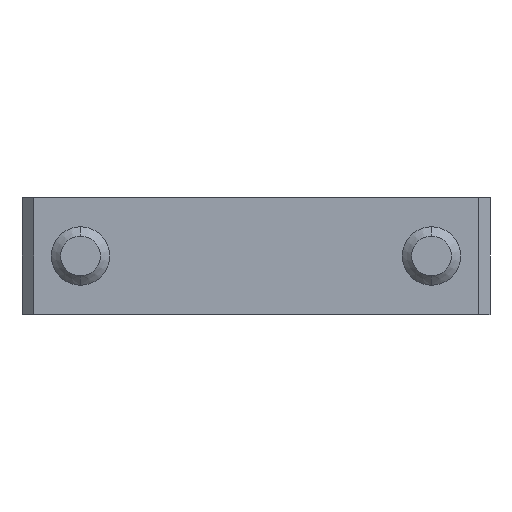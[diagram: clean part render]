
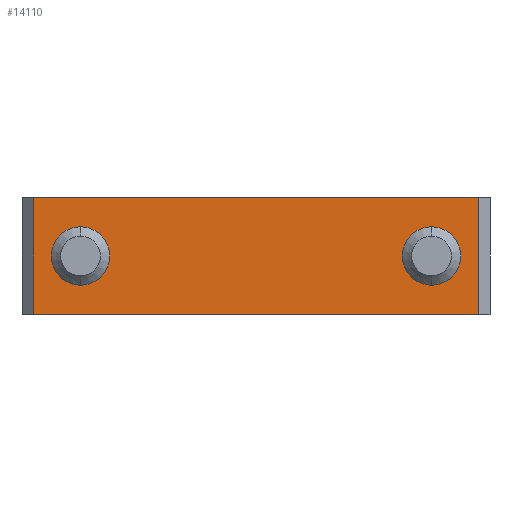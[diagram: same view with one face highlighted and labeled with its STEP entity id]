
A CAD part, front view. The second image highlights one B-rep face of the part: STEP entity #14110.
In plain terms, the highlighted planar face has unit normal (0, -1, 0).
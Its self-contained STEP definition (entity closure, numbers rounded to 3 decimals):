
#578 = VERTEX_POINT ( 'NONE', #10893 ) ;
#682 = EDGE_CURVE ( 'NONE', #10719, #578, #13138, .T. ) ;
#1103 = VERTEX_POINT ( 'NONE', #1793 ) ;
#1231 = EDGE_CURVE ( 'NONE', #16197, #8776, #11460, .T. ) ;
#1290 = AXIS2_PLACEMENT_3D ( 'NONE', #19780, #7732, #13087 ) ;
#1379 = EDGE_LOOP ( 'NONE', ( #9186, #13948 ) ) ;
#1493 = DIRECTION ( 'NONE',  ( 0., 0., 1. ) ) ;
#1654 = CARTESIAN_POINT ( 'NONE',  ( -33.909, 13.955, -5. ) ) ;
#1793 = CARTESIAN_POINT ( 'NONE',  ( -67.909, 13.955, -2.5 ) ) ;
#1997 = CIRCLE ( 'NONE', #6360, 2.5 ) ;
#2478 = EDGE_LOOP ( 'NONE', ( #11260, #8096 ) ) ;
#2579 = VERTEX_POINT ( 'NONE', #5993 ) ;
#2684 = ORIENTED_EDGE ( 'NONE', *, *, #6602, .T. ) ;
#2819 = FACE_BOUND ( 'NONE', #2478, .T. ) ;
#2920 = ORIENTED_EDGE ( 'NONE', *, *, #9276, .T. ) ;
#3152 = ORIENTED_EDGE ( 'NONE', *, *, #1231, .T. ) ;
#3616 = CARTESIAN_POINT ( 'NONE',  ( -71.909, 13.955, 5. ) ) ;
#4619 = CARTESIAN_POINT ( 'NONE',  ( -52.909, 13.955, -5. ) ) ;
#4845 = CARTESIAN_POINT ( 'NONE',  ( -71.909, 13.955, -5. ) ) ;
#5505 = FACE_BOUND ( 'NONE', #1379, .T. ) ;
#5993 = CARTESIAN_POINT ( 'NONE',  ( -33.909, 13.955, 5. ) ) ;
#6039 = DIRECTION ( 'NONE',  ( 0., -1., 0. ) ) ;
#6241 = LINE ( 'NONE', #18668, #17230 ) ;
#6360 = AXIS2_PLACEMENT_3D ( 'NONE', #12675, #6039, #9329 ) ;
#6602 = EDGE_CURVE ( 'NONE', #20463, #16197, #17945, .T. ) ;
#6855 = VECTOR ( 'NONE', #9417, 1000. ) ;
#6864 = CARTESIAN_POINT ( 'NONE',  ( -71.909, 13.955, 0. ) ) ;
#7088 = CIRCLE ( 'NONE', #1290, 2.5 ) ;
#7167 = DIRECTION ( 'NONE',  ( 0., -1., 0. ) ) ;
#7732 = DIRECTION ( 'NONE',  ( 0., -1., 0. ) ) ;
#7748 = CARTESIAN_POINT ( 'NONE',  ( -52.909, 13.955, 5. ) ) ;
#8096 = ORIENTED_EDGE ( 'NONE', *, *, #17781, .F. ) ;
#8721 = FACE_OUTER_BOUND ( 'NONE', #9357, .T. ) ;
#8776 = VERTEX_POINT ( 'NONE', #1654 ) ;
#9186 = ORIENTED_EDGE ( 'NONE', *, *, #682, .T. ) ;
#9276 = EDGE_CURVE ( 'NONE', #2579, #20463, #16779, .T. ) ;
#9329 = DIRECTION ( 'NONE',  ( 0., 0., -1. ) ) ;
#9357 = EDGE_LOOP ( 'NONE', ( #2920, #2684, #3152, #18746 ) ) ;
#9417 = DIRECTION ( 'NONE',  ( -1., 0., 0. ) ) ;
#9785 = AXIS2_PLACEMENT_3D ( 'NONE', #14521, #21437, #12960 ) ;
#10719 = VERTEX_POINT ( 'NONE', #13394 ) ;
#10893 = CARTESIAN_POINT ( 'NONE',  ( -37.909, 13.955, -2.5 ) ) ;
#11260 = ORIENTED_EDGE ( 'NONE', *, *, #21279, .F. ) ;
#11306 = AXIS2_PLACEMENT_3D ( 'NONE', #3616, #7167, #14089 ) ;
#11460 = LINE ( 'NONE', #4619, #19990 ) ;
#11577 = CARTESIAN_POINT ( 'NONE',  ( -37.909, 13.955, 0. ) ) ;
#12545 = AXIS2_PLACEMENT_3D ( 'NONE', #11577, #20303, #20065 ) ;
#12642 = VECTOR ( 'NONE', #13906, 1000. ) ;
#12675 = CARTESIAN_POINT ( 'NONE',  ( -67.909, 13.955, 0. ) ) ;
#12960 = DIRECTION ( 'NONE',  ( 0., 0., 1. ) ) ;
#13087 = DIRECTION ( 'NONE',  ( 0., 0., -1. ) ) ;
#13138 = CIRCLE ( 'NONE', #12545, 2.5 ) ;
#13394 = CARTESIAN_POINT ( 'NONE',  ( -37.909, 13.955, 2.5 ) ) ;
#13906 = DIRECTION ( 'NONE',  ( 0., 0., -1. ) ) ;
#13948 = ORIENTED_EDGE ( 'NONE', *, *, #18882, .T. ) ;
#14011 = PLANE ( 'NONE',  #11306 ) ;
#14089 = DIRECTION ( 'NONE',  ( 0., 0., -1. ) ) ;
#14110 = ADVANCED_FACE ( 'NONE', ( #5505, #2819, #8721 ), #14011, .T. ) ;
#14521 = CARTESIAN_POINT ( 'NONE',  ( -37.909, 13.955, 0. ) ) ;
#16180 = CARTESIAN_POINT ( 'NONE',  ( -71.909, 13.955, 5. ) ) ;
#16197 = VERTEX_POINT ( 'NONE', #4845 ) ;
#16740 = CARTESIAN_POINT ( 'NONE',  ( -67.909, 13.955, 2.5 ) ) ;
#16779 = LINE ( 'NONE', #7748, #6855 ) ;
#17230 = VECTOR ( 'NONE', #1493, 1000. ) ;
#17781 = EDGE_CURVE ( 'NONE', #20504, #1103, #1997, .T. ) ;
#17921 = EDGE_CURVE ( 'NONE', #8776, #2579, #6241, .T. ) ;
#17945 = LINE ( 'NONE', #6864, #12642 ) ;
#18668 = CARTESIAN_POINT ( 'NONE',  ( -33.909, 13.955, 0. ) ) ;
#18746 = ORIENTED_EDGE ( 'NONE', *, *, #17921, .T. ) ;
#18882 = EDGE_CURVE ( 'NONE', #578, #10719, #19256, .T. ) ;
#19256 = CIRCLE ( 'NONE', #9785, 2.5 ) ;
#19780 = CARTESIAN_POINT ( 'NONE',  ( -67.909, 13.955, 0. ) ) ;
#19990 = VECTOR ( 'NONE', #21510, 1000. ) ;
#20065 = DIRECTION ( 'NONE',  ( 0., 0., 1. ) ) ;
#20303 = DIRECTION ( 'NONE',  ( 0., 1., 0. ) ) ;
#20463 = VERTEX_POINT ( 'NONE', #16180 ) ;
#20504 = VERTEX_POINT ( 'NONE', #16740 ) ;
#21279 = EDGE_CURVE ( 'NONE', #1103, #20504, #7088, .T. ) ;
#21437 = DIRECTION ( 'NONE',  ( 0., 1., 0. ) ) ;
#21510 = DIRECTION ( 'NONE',  ( 1., 0., 0. ) ) ;
